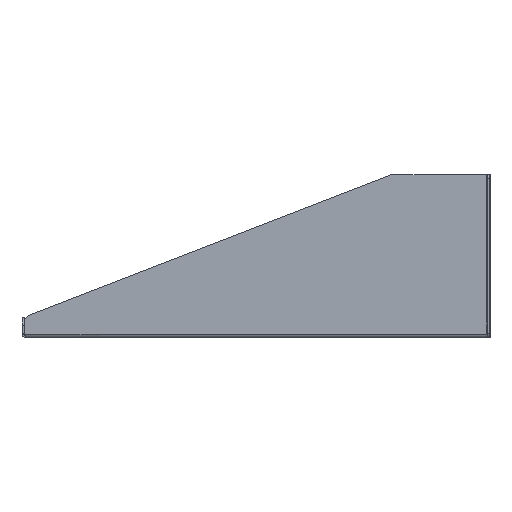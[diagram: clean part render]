
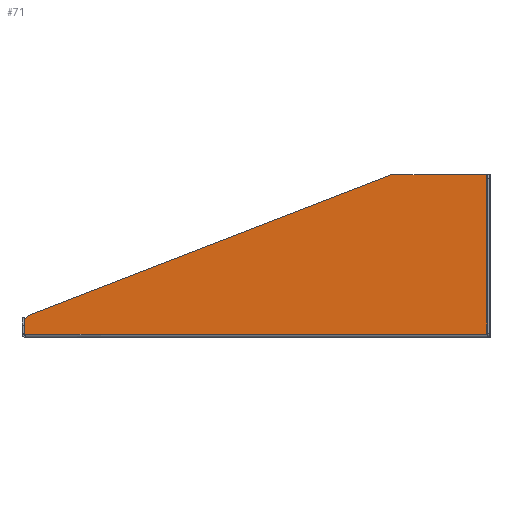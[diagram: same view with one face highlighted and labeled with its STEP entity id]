
A CAD part, left-side view. The second image highlights one B-rep face of the part: STEP entity #71.
In plain terms, the highlighted planar face has unit normal (-1, 0, 0).
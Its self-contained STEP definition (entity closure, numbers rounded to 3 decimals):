
#71 = ADVANCED_FACE( '', ( #1141 ), #1142, .F. );
#1141 = FACE_OUTER_BOUND( '', #2999, .T. );
#1142 = PLANE( '', #3000 );
#2999 = EDGE_LOOP( '', ( #5931, #5932, #5933, #5934, #5935, #5936, #5937, #5938 ) );
#3000 = AXIS2_PLACEMENT_3D( '', #5939, #5940, #5941 );
#5931 = ORIENTED_EDGE( '', *, *, #12266, .T. );
#5932 = ORIENTED_EDGE( '', *, *, #12268, .T. );
#5933 = ORIENTED_EDGE( '', *, *, #12275, .T. );
#5934 = ORIENTED_EDGE( '', *, *, #12276, .F. );
#5935 = ORIENTED_EDGE( '', *, *, #12277, .F. );
#5936 = ORIENTED_EDGE( '', *, *, #12278, .T. );
#5937 = ORIENTED_EDGE( '', *, *, #12279, .T. );
#5938 = ORIENTED_EDGE( '', *, *, #12280, .T. );
#5939 = CARTESIAN_POINT( '', ( -285.75, -189.586, 1.587 ) );
#5940 = DIRECTION( '', ( 1., 0., 0. ) );
#5941 = DIRECTION( '', ( 0., 0., -1. ) );
#12266 = EDGE_CURVE( '', #15726, #15724, #15727, .T. );
#12268 = EDGE_CURVE( '', #15724, #15703, #15729, .T. );
#12275 = EDGE_CURVE( '', #15703, #15687, #15739, .T. );
#12276 = EDGE_CURVE( '', #15740, #15687, #15741, .T. );
#12277 = EDGE_CURVE( '', #15742, #15740, #15743, .T. );
#12278 = EDGE_CURVE( '', #15742, #15744, #15745, .T. );
#12279 = EDGE_CURVE( '', #15744, #15746, #15747, .T. );
#12280 = EDGE_CURVE( '', #15746, #15726, #15748, .F. );
#15687 = VERTEX_POINT( '', #19953 );
#15703 = VERTEX_POINT( '', #19979 );
#15724 = VERTEX_POINT( '', #20042 );
#15726 = VERTEX_POINT( '', #20045 );
#15727 = LINE( '', #20046, #20047 );
#15729 = CIRCLE( '', #20050, 1.397 );
#15739 = LINE( '', #20095, #20096 );
#15740 = VERTEX_POINT( '', #20097 );
#15741 = LINE( '', #20098, #20099 );
#15742 = VERTEX_POINT( '', #20100 );
#15743 = LINE( '', #20101, #20102 );
#15744 = VERTEX_POINT( '', #20103 );
#15745 = LINE( '', #20104, #20105 );
#15746 = VERTEX_POINT( '', #20106 );
#15747 = LINE( '', #20107, #20108 );
#15748 = LINE( '', #20109, #20110 );
#19953 = CARTESIAN_POINT( '', ( -285.75, -188.671, 2.743 ) );
#19979 = CARTESIAN_POINT( '', ( -285.75, 187.214, 2.743 ) );
#20042 = CARTESIAN_POINT( '', ( -285.75, 187.755, 2.963 ) );
#20045 = CARTESIAN_POINT( '', ( -285.75, 187.755, 14.531 ) );
#20046 = CARTESIAN_POINT( '', ( -285.75, 187.755, 132.537 ) );
#20047 = VECTOR( '', #24406, 1000. );
#20050 = AXIS2_PLACEMENT_3D( '', #24408, #24409, #24410 );
#20095 = CARTESIAN_POINT( '', ( -285.75, 189.586, 2.743 ) );
#20096 = VECTOR( '', #24421, 1000. );
#20097 = CARTESIAN_POINT( '', ( -285.75, -188.671, 2.745 ) );
#20098 = CARTESIAN_POINT( '', ( -285.75, -188.671, 2.745 ) );
#20099 = VECTOR( '', #24422, 1000. );
#20100 = CARTESIAN_POINT( '', ( -285.75, -188.671, 132.537 ) );
#20101 = CARTESIAN_POINT( '', ( -285.75, -188.671, 2.745 ) );
#20102 = VECTOR( '', #24423, 1000. );
#20103 = CARTESIAN_POINT( '', ( -285.75, -111.481, 132.537 ) );
#20104 = CARTESIAN_POINT( '', ( -285.75, -189.586, 132.537 ) );
#20105 = VECTOR( '', #24424, 1000. );
#20106 = CARTESIAN_POINT( '', ( -285.75, 184.402, 17.884 ) );
#20107 = CARTESIAN_POINT( '', ( -285.75, -135.271, 141.756 ) );
#20108 = VECTOR( '', #24425, 1000. );
#20109 = CARTESIAN_POINT( '', ( -285.75, 184.402, 17.884 ) );
#20110 = VECTOR( '', #24426, 1000. );
#24406 = DIRECTION( '', ( 0., 0., -1. ) );
#24408 = CARTESIAN_POINT( '', ( -285.75, 187.998, 1.587 ) );
#24409 = DIRECTION( '', ( 1., 0., 0. ) );
#24410 = DIRECTION( '', ( 0., 1., 0. ) );
#24421 = DIRECTION( '', ( 0., -1., 0. ) );
#24422 = DIRECTION( '', ( 0., 0., -1. ) );
#24423 = DIRECTION( '', ( 0., 0., -1. ) );
#24424 = DIRECTION( '', ( 0., 1., 0. ) );
#24425 = DIRECTION( '', ( 0., 0.932, -0.361 ) );
#24426 = DIRECTION( '', ( 0., -0.707, 0.707 ) );
